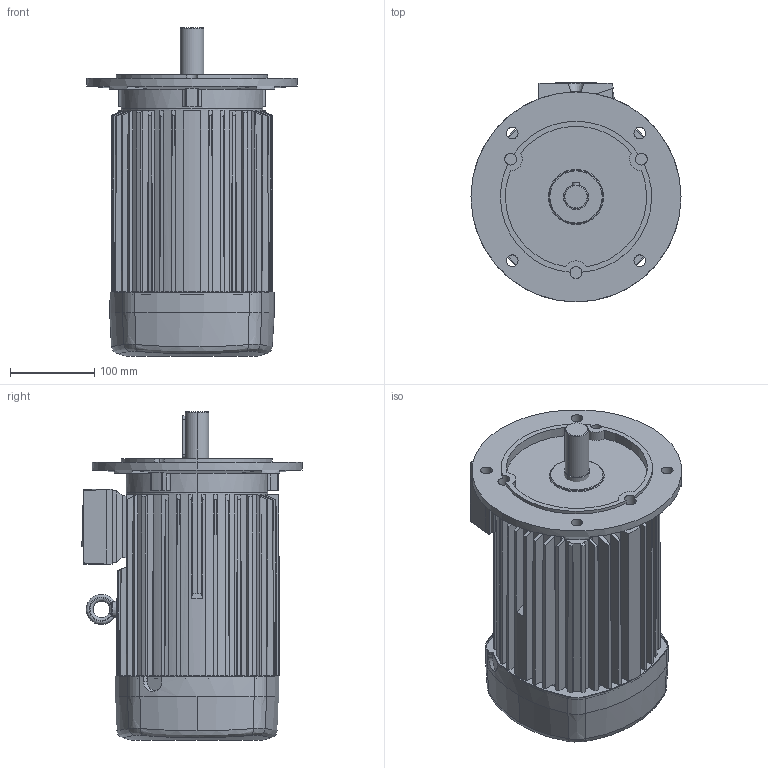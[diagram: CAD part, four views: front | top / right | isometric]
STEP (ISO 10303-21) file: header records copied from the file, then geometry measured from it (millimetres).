
FILE_DESCRIPTION (( 'STEP AP214' ), '1' );
FILE_NAME ('K_R_G100L_B5FF215_28x60.STEP', '2016-06-09T11:40:20', ( '' ), ( '' ), 'SwSTEP 2.0', 'SolidWorks 2013', '' );
FILE_SCHEMA (( 'AUTOMOTIVE_DESIGN' ));
Length unit declared in the file: millimetre
Products named in the file (10): LF_FF_Kat_11FF215; WE_Kat_28x60; KA05_komplett_Kat; KD05_Kat; Verschluß_Kat; KA05_Kat; LHB_Kat_LHB10; Ringschraube_M8; G100L_Kat; K_R_G100L_B5FF215_28x60
Assembly tree (9 placements, depth 3):
  K_R_G100L_B5FF215_28x60
    G100L_Kat
    Ringschraube_M8
    LHB_Kat_LHB10
    KA05_komplett_Kat
      KA05_Kat
      Verschluß_Kat
      KD05_Kat
    WE_Kat_28x60
    LF_FF_Kat_11FF215
Bounding box: 250 x 261.93 x 391 mm (x, y, z)
Volume: 9466607.3 mm3; surface area: 628896.2 mm2
Topology: 8 solids, 8 shells, 476 faces, 1252 edges, 802 vertices
Faces by surface type: plane 266, cylinder 99, cone 85, bspline 16, torus 8, sphere 2
Entity records: 17744 total; most frequent: CARTESIAN_POINT 5047, ORIENTED_EDGE 2504, DIRECTION 2260, EDGE_CURVE 1252, AXIS2_PLACEMENT_3D 827, VERTEX_POINT 802, LINE 606, VECTOR 606
